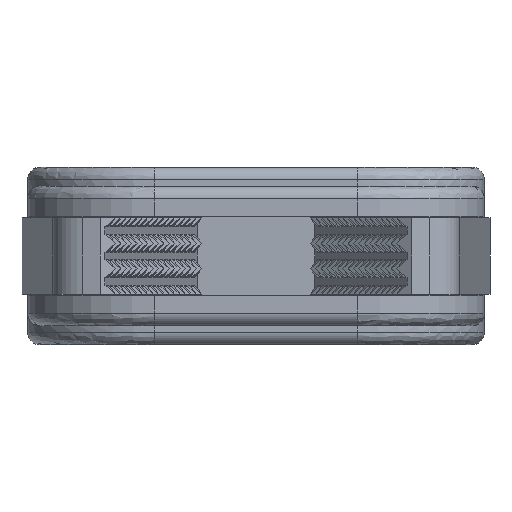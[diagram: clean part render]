
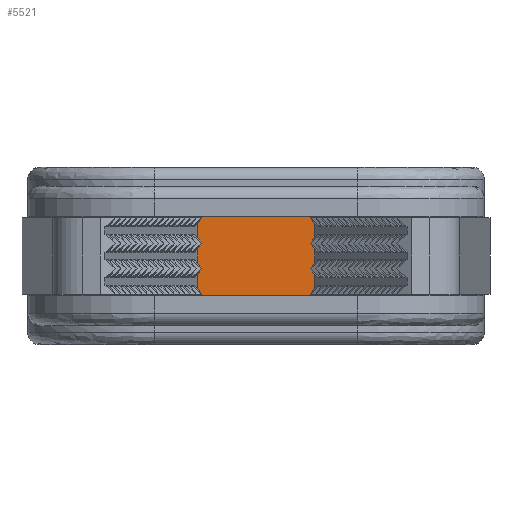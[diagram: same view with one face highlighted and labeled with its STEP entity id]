
A CAD part, front view. The second image highlights one B-rep face of the part: STEP entity #5521.
In plain terms, the highlighted planar face has unit normal (0, -1, 0).
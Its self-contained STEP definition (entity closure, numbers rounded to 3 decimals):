
#5521=ADVANCED_FACE('',(#6762),#6139,.F.);
#6139=PLANE('',#16781);
#6762=FACE_OUTER_BOUND('',#7434,.T.);
#7434=EDGE_LOOP('',(#8570,#8571,#8572,#8573));
#8570=ORIENTED_EDGE('',*,*,#12580,.F.);
#8571=ORIENTED_EDGE('',*,*,#12585,.T.);
#8572=ORIENTED_EDGE('',*,*,#12328,.T.);
#8573=ORIENTED_EDGE('',*,*,#12586,.F.);
#11325=VERTEX_POINT('',#20509);
#11326=VERTEX_POINT('',#20511);
#11484=VERTEX_POINT('',#21313);
#11485=VERTEX_POINT('',#21315);
#12328=EDGE_CURVE('',#11326,#11325,#13934,.T.);
#12580=EDGE_CURVE('',#11484,#11485,#14017,.T.);
#12585=EDGE_CURVE('',#11484,#11326,#14022,.T.);
#12586=EDGE_CURVE('',#11485,#11325,#14023,.T.);
#13934=LINE('',#20510,#15266);
#14017=LINE('',#21314,#15349);
#14022=LINE('',#21324,#15354);
#14023=LINE('',#21325,#15355);
#15266=VECTOR('',#17455,1.);
#15349=VECTOR('',#17910,1.);
#15354=VECTOR('',#17917,1.);
#15355=VECTOR('',#17918,1.);
#16781=AXIS2_PLACEMENT_3D('',#21326,#17919,#17920);
#17455=DIRECTION('',(0.,0.,-1.));
#17910=DIRECTION('',(0.,0.,-1.));
#17917=DIRECTION('',(-1.,0.,0.));
#17918=DIRECTION('',(-1.,0.,0.));
#17919=DIRECTION('',(0.,1.,0.));
#17920=DIRECTION('',(0.,0.,1.));
#20509=CARTESIAN_POINT('',(-6.643,-12.612,38.45));
#20510=CARTESIAN_POINT('',(-6.643,-12.612,40.));
#20511=CARTESIAN_POINT('',(-6.643,-12.612,41.55));
#21313=CARTESIAN_POINT('',(3.357,-12.612,41.55));
#21314=CARTESIAN_POINT('',(3.357,-12.612,38.45));
#21315=CARTESIAN_POINT('',(3.357,-12.612,38.45));
#21324=CARTESIAN_POINT('',(-1.643,-12.612,41.55));
#21325=CARTESIAN_POINT('',(-1.643,-12.612,38.45));
#21326=CARTESIAN_POINT('',(-1.643,-12.612,40.));
